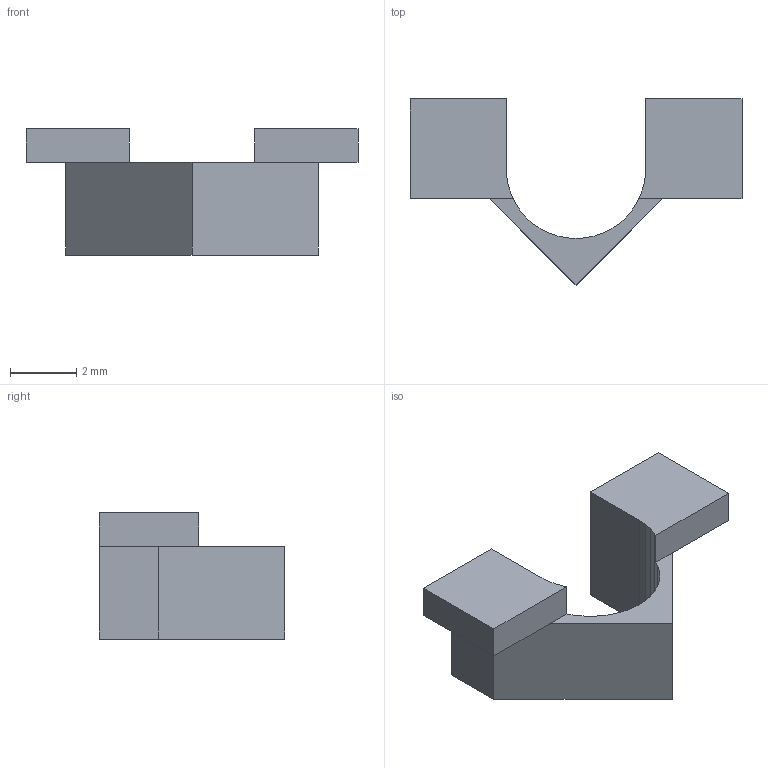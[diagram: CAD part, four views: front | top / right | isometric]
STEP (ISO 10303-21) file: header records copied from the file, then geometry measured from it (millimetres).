
FILE_DESCRIPTION(('Open CASCADE Model'),'2;1');
FILE_NAME('Open CASCADE Shape Model','2026-10-24T07:17:07',('Author'),( 'Open CASCADE'),'Open CASCADE STEP processor 8.0','build123d', 'Unknown');
FILE_SCHEMA(('AUTOMOTIVE_DESIGN { 1 0 10303 214 1 1 1 1 }'));
Length unit declared in the file: millimetre
Products named in the file (2): =>[0:1:1:2]; SOLID
Assembly tree (1 placements, depth 2):
  =>[0:1:1:2]
    SOLID
Bounding box: 10 x 5.6 x 3.8 mm (x, y, z)
Volume: 52.2 mm3; surface area: 146.1 mm2
Topology: 1 solids, 1 shells, 42 faces, 118 edges, 78 vertices
Faces by surface type: plane 42
Entity records: 2772 total; most frequent: CARTESIAN_POINT 592, DIRECTION 326, LINE 238, VECTOR 238, ORIENTED_EDGE 236, PCURVE 236, DEFINITIONAL_REPRESENTATION 236, EDGE_CURVE 118
